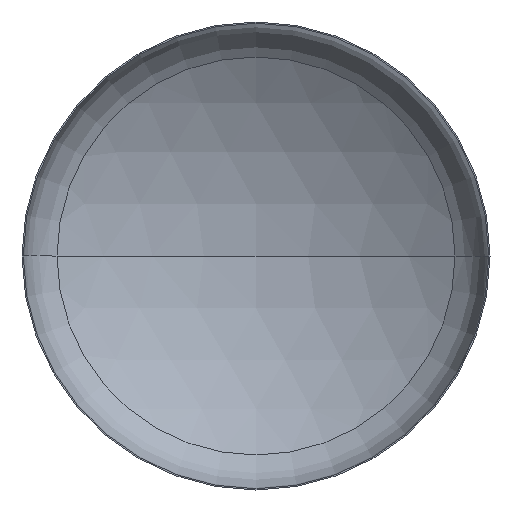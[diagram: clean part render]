
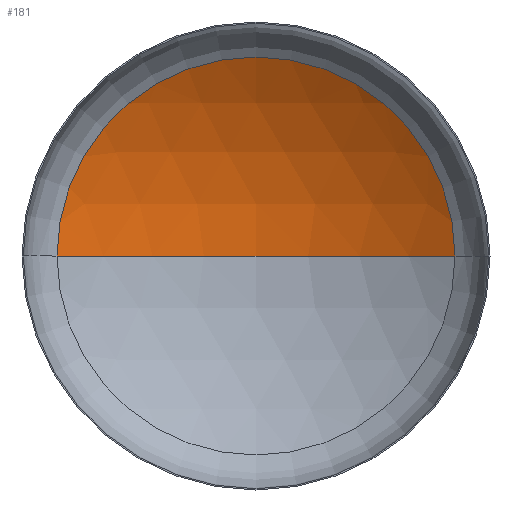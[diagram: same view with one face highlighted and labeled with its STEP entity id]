
A CAD part, front view. The second image highlights one B-rep face of the part: STEP entity #181.
In plain terms, the highlighted spherical face has radius 6000 mm.
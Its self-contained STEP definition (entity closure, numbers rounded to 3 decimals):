
#9 = ORIENTED_EDGE ( 'NONE', *, *, #153, .T. ) ;
#22 = VERTEX_POINT ( 'NONE', #303 ) ;
#34 = ORIENTED_EDGE ( 'NONE', *, *, #156, .T. ) ;
#56 = AXIS2_PLACEMENT_3D ( 'NONE', #394, #221, #290 ) ;
#79 = AXIS2_PLACEMENT_3D ( 'NONE', #194, #200, #86 ) ;
#82 = ORIENTED_EDGE ( 'NONE', *, *, #158, .F. ) ;
#85 = AXIS2_PLACEMENT_3D ( 'NONE', #230, #212, #211 ) ;
#86 = DIRECTION ( 'NONE',  ( 1., 0., 0. ) ) ;
#87 = AXIS2_PLACEMENT_3D ( 'NONE', #321, #319, #314 ) ;
#126 = EDGE_LOOP ( 'NONE', ( #82, #34, #9 ) ) ;
#149 = VERTEX_POINT ( 'NONE', #326 ) ;
#153 = EDGE_CURVE ( 'NONE', #22, #149, #238, .T. ) ;
#156 = EDGE_CURVE ( 'NONE', #259, #22, #157, .T. ) ;
#157 = CIRCLE ( 'NONE', #85, 6000. ) ;
#158 = EDGE_CURVE ( 'NONE', #259, #149, #404, .T. ) ;
#181 = ADVANCED_FACE ( 'NONE', ( #278 ), #217, .F. ) ;
#194 = CARTESIAN_POINT ( 'NONE',  ( 0., -4044.071, 0. ) ) ;
#200 = DIRECTION ( 'NONE',  ( 0., 0., 1. ) ) ;
#211 = DIRECTION ( 'NONE',  ( -1., 0., 0. ) ) ;
#212 = DIRECTION ( 'NONE',  ( 0., 0., -1. ) ) ;
#217 = SPHERICAL_SURFACE ( 'NONE', #56, 6000. ) ;
#221 = DIRECTION ( 'NONE',  ( 0., 0., -1. ) ) ;
#230 = CARTESIAN_POINT ( 'NONE',  ( 0., -4044.071, 0. ) ) ;
#238 = CIRCLE ( 'NONE', #87, 3188.854 ) ;
#259 = VERTEX_POINT ( 'NONE', #392 ) ;
#278 = FACE_OUTER_BOUND ( 'NONE', #126, .T. ) ;
#290 = DIRECTION ( 'NONE',  ( -1., 0., 0. ) ) ;
#303 = CARTESIAN_POINT ( 'NONE',  ( 3188.854, 1038.37, 0. ) ) ;
#314 = DIRECTION ( 'NONE',  ( 1., 0., 0. ) ) ;
#319 = DIRECTION ( 'NONE',  ( 0., -1., 0. ) ) ;
#321 = CARTESIAN_POINT ( 'NONE',  ( 0., 1038.37, 0. ) ) ;
#326 = CARTESIAN_POINT ( 'NONE',  ( -3188.854, 1038.37, 0. ) ) ;
#392 = CARTESIAN_POINT ( 'NONE',  ( 0., 1955.929, 0. ) ) ;
#394 = CARTESIAN_POINT ( 'NONE',  ( 0., -4044.071, 0. ) ) ;
#404 = CIRCLE ( 'NONE', #79, 6000. ) ;
